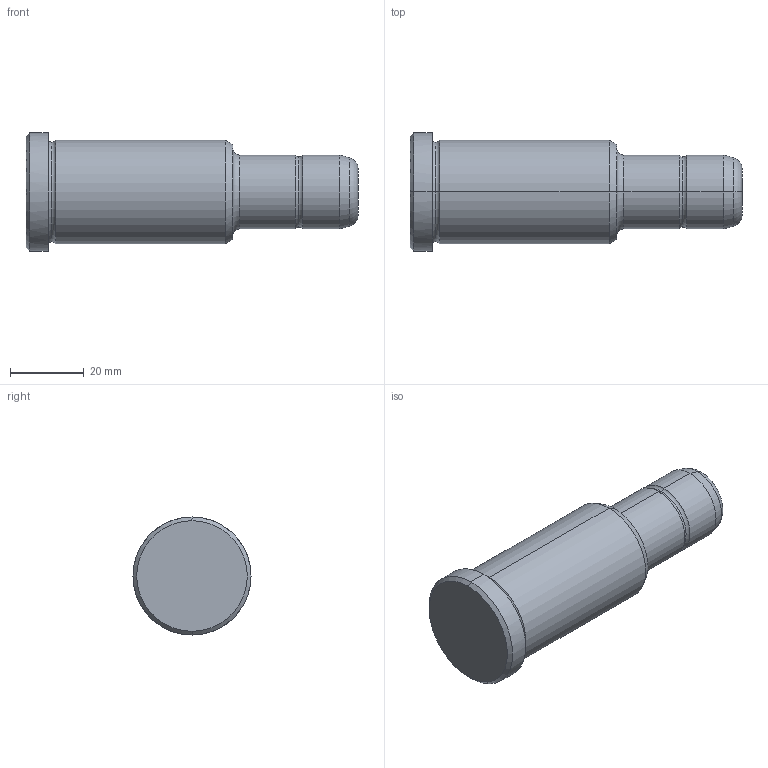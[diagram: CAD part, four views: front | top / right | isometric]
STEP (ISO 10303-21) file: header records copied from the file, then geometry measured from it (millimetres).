
FILE_DESCRIPTION(('CATIA V5 STEP Exchange'),'2;1');
FILE_NAME('C:\Users\Utente\Desktop\IO LAVORO\3D X SITO CF\X SITO\PLASTICA\351\351-20X56X90.stp','2021-08-27T12:50:44+00:00',('none'),('none'),'CATIA Version 5 Release 20 GA (IN-10)','CATIA V5 STEP AP203','none');
FILE_SCHEMA(('CONFIG_CONTROL_DESIGN'));
Length unit declared in the file: millimetre
Products named in the file (1): 351-20X56X90
Bounding box: 90 x 32 x 32 mm (x, y, z)
Volume: 45845.3 mm3; surface area: 8465.1 mm2
Topology: 1 solids, 1 shells, 30 faces, 86 edges, 60 vertices
Faces by surface type: torus 12, cylinder 8, cone 6, plane 4
Entity records: 1112 total; most frequent: CARTESIAN_POINT 289, ORIENTED_EDGE 172, DIRECTION 138, AXIS2_PLACEMENT_3D 95, EDGE_CURVE 86, CIRCLE 64, VERTEX_POINT 60, EDGE_LOOP 32
